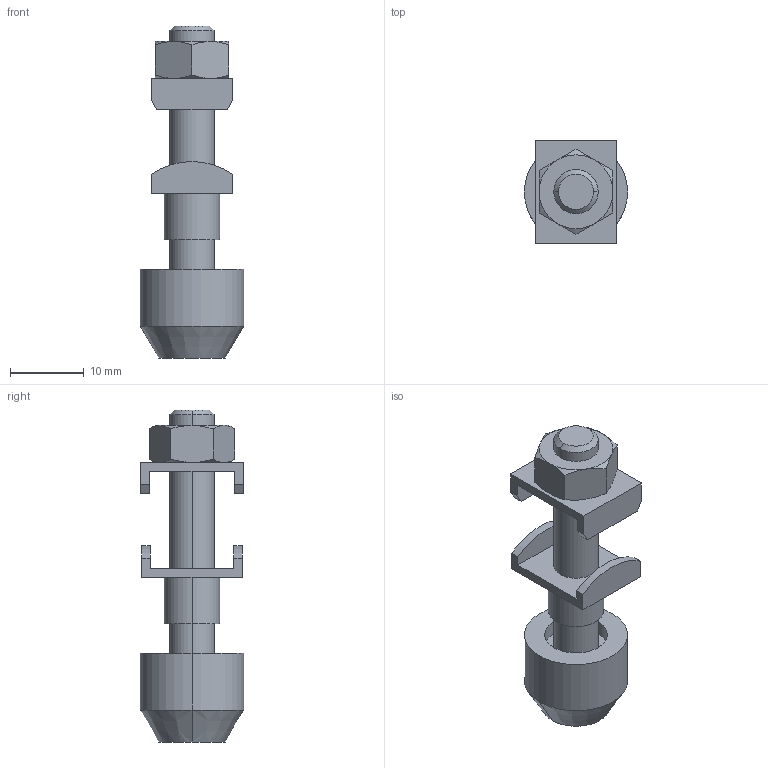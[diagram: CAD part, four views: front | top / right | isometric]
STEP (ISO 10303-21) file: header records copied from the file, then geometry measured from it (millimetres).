
FILE_DESCRIPTION(('STEP AP214'),'1');
FILE_NAME('cctmp_A6971FBE-229D-4986-B9A9-A018EF7B35D7_2020_7_6_11_9_55_929..stp','2020-07-06T09:09:56',('Meusburger Georg GmbH & Co KG'),('CADClick - www.CADClick.com'),'Spatial InterOp 3D',' ','unknown authorization');
FILE_SCHEMA(('AUTOMOTIVE_DESIGN { 1 0 10303 214 1 1 1 1 }'));
Length unit declared in the file: millimetre
Products named in the file (6): HWS 2002_2; E 90200_6
Assembly tree (5 placements, depth 2):
  HWS 2002_2
    E 90200_6
    HWS 2002_2
    HWS 2002_2
    HWS 2002_2
    HWS 2002_2
Bounding box: 14 x 14 x 45 mm (x, y, z)
Volume: 3383 mm3; surface area: 3544.9 mm2
Topology: 5 solids, 5 shells, 86 faces, 192 edges, 120 vertices
Faces by surface type: plane 44, cone 24, cylinder 18
Entity records: 3255 total; most frequent: CARTESIAN_POINT 500, DIRECTION 412, ORIENTED_EDGE 384, EDGE_CURVE 192, AXIS2_PLACEMENT_3D 152, VERTEX_POINT 120, LINE 108, VECTOR 108
